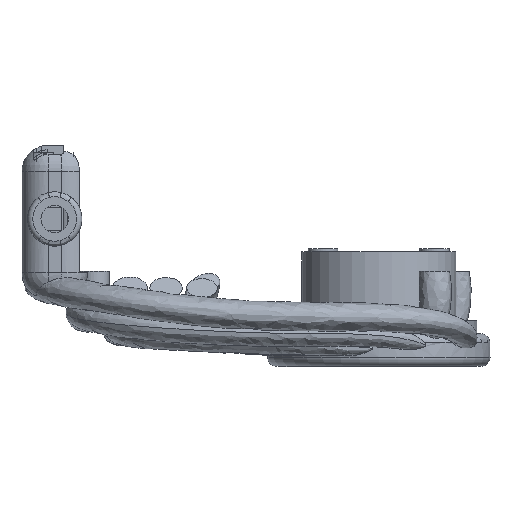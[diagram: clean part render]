
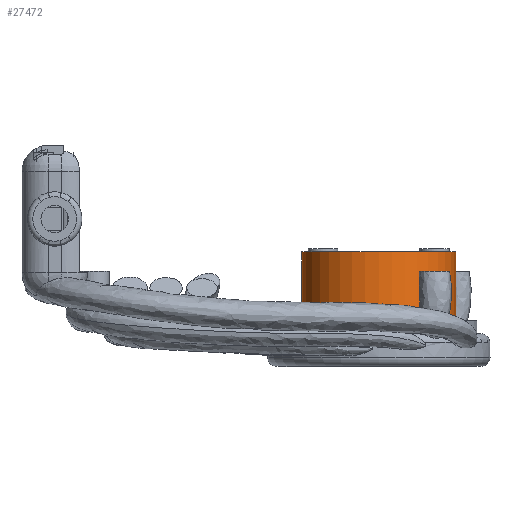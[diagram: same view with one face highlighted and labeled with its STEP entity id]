
A CAD part, top view. The second image highlights one B-rep face of the part: STEP entity #27472.
In plain terms, the highlighted cylindrical face has radius 23.5 mm (diameter 47 mm), a full revolution.
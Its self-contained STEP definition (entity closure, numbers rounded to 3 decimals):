
#25592 = PLANE('',#25593);
#25593 = AXIS2_PLACEMENT_3D('',#25594,#25595,#25596);
#25594 = CARTESIAN_POINT('',(31.,-31.,43.));
#25595 = DIRECTION('',(0.,1.,0.));
#25596 = DIRECTION('',(0.,-0.,1.));
#27230 = EDGE_CURVE('',#27231,#27231,#27233,.T.);
#27231 = VERTEX_POINT('',#27232);
#27232 = CARTESIAN_POINT('',(31.,-31.,66.5));
#27233 = SURFACE_CURVE('',#27234,(#27239,#27246),.PCURVE_S1.);
#27234 = CIRCLE('',#27235,23.5);
#27235 = AXIS2_PLACEMENT_3D('',#27236,#27237,#27238);
#27236 = CARTESIAN_POINT('',(31.,-31.,43.));
#27237 = DIRECTION('',(0.,1.,0.));
#27238 = DIRECTION('',(0.,-0.,1.));
#27239 = PCURVE('',#25592,#27240);
#27240 = DEFINITIONAL_REPRESENTATION('',(#27241),#27245);
#27241 = CIRCLE('',#27242,23.5);
#27242 = AXIS2_PLACEMENT_2D('',#27243,#27244);
#27243 = CARTESIAN_POINT('',(0.,0.));
#27244 = DIRECTION('',(1.,0.));
#27245 = ( GEOMETRIC_REPRESENTATION_CONTEXT(2) 
PARAMETRIC_REPRESENTATION_CONTEXT() REPRESENTATION_CONTEXT('2D SPACE',''
  ) );
#27246 = PCURVE('',#27247,#27252);
#27247 = CYLINDRICAL_SURFACE('',#27248,23.5);
#27248 = AXIS2_PLACEMENT_3D('',#27249,#27250,#27251);
#27249 = CARTESIAN_POINT('',(31.,-32.,43.));
#27250 = DIRECTION('',(0.,1.,0.));
#27251 = DIRECTION('',(0.,-0.,1.));
#27252 = DEFINITIONAL_REPRESENTATION('',(#27253),#27257);
#27253 = LINE('',#27254,#27255);
#27254 = CARTESIAN_POINT('',(0.,1.));
#27255 = VECTOR('',#27256,1.);
#27256 = DIRECTION('',(1.,0.));
#27257 = ( GEOMETRIC_REPRESENTATION_CONTEXT(2) 
PARAMETRIC_REPRESENTATION_CONTEXT() REPRESENTATION_CONTEXT('2D SPACE',''
  ) );
#27472 = ADVANCED_FACE('',(#27473),#27247,.T.);
#27473 = FACE_BOUND('',#27474,.T.);
#27474 = EDGE_LOOP('',(#27475,#27498,#27525,#27526));
#27475 = ORIENTED_EDGE('',*,*,#27476,.T.);
#27476 = EDGE_CURVE('',#27231,#27477,#27479,.T.);
#27477 = VERTEX_POINT('',#27478);
#27478 = CARTESIAN_POINT('',(31.,-10.,66.5));
#27479 = SEAM_CURVE('',#27480,(#27484,#27491),.PCURVE_S1.);
#27480 = LINE('',#27481,#27482);
#27481 = CARTESIAN_POINT('',(31.,-32.,66.5));
#27482 = VECTOR('',#27483,1.);
#27483 = DIRECTION('',(0.,1.,0.));
#27484 = PCURVE('',#27247,#27485);
#27485 = DEFINITIONAL_REPRESENTATION('',(#27486),#27490);
#27486 = LINE('',#27487,#27488);
#27487 = CARTESIAN_POINT('',(6.283,0.));
#27488 = VECTOR('',#27489,1.);
#27489 = DIRECTION('',(0.,1.));
#27490 = ( GEOMETRIC_REPRESENTATION_CONTEXT(2) 
PARAMETRIC_REPRESENTATION_CONTEXT() REPRESENTATION_CONTEXT('2D SPACE',''
  ) );
#27491 = PCURVE('',#27247,#27492);
#27492 = DEFINITIONAL_REPRESENTATION('',(#27493),#27497);
#27493 = LINE('',#27494,#27495);
#27494 = CARTESIAN_POINT('',(0.,0.));
#27495 = VECTOR('',#27496,1.);
#27496 = DIRECTION('',(0.,1.));
#27497 = ( GEOMETRIC_REPRESENTATION_CONTEXT(2) 
PARAMETRIC_REPRESENTATION_CONTEXT() REPRESENTATION_CONTEXT('2D SPACE',''
  ) );
#27498 = ORIENTED_EDGE('',*,*,#27499,.F.);
#27499 = EDGE_CURVE('',#27477,#27477,#27500,.T.);
#27500 = SURFACE_CURVE('',#27501,(#27506,#27513),.PCURVE_S1.);
#27501 = CIRCLE('',#27502,23.5);
#27502 = AXIS2_PLACEMENT_3D('',#27503,#27504,#27505);
#27503 = CARTESIAN_POINT('',(31.,-10.,43.));
#27504 = DIRECTION('',(0.,1.,0.));
#27505 = DIRECTION('',(0.,-0.,1.));
#27506 = PCURVE('',#27247,#27507);
#27507 = DEFINITIONAL_REPRESENTATION('',(#27508),#27512);
#27508 = LINE('',#27509,#27510);
#27509 = CARTESIAN_POINT('',(0.,22.));
#27510 = VECTOR('',#27511,1.);
#27511 = DIRECTION('',(1.,0.));
#27512 = ( GEOMETRIC_REPRESENTATION_CONTEXT(2) 
PARAMETRIC_REPRESENTATION_CONTEXT() REPRESENTATION_CONTEXT('2D SPACE',''
  ) );
#27513 = PCURVE('',#27514,#27519);
#27514 = PLANE('',#27515);
#27515 = AXIS2_PLACEMENT_3D('',#27516,#27517,#27518);
#27516 = CARTESIAN_POINT('',(31.,-10.,43.));
#27517 = DIRECTION('',(0.,1.,0.));
#27518 = DIRECTION('',(0.,-0.,1.));
#27519 = DEFINITIONAL_REPRESENTATION('',(#27520),#27524);
#27520 = CIRCLE('',#27521,23.5);
#27521 = AXIS2_PLACEMENT_2D('',#27522,#27523);
#27522 = CARTESIAN_POINT('',(0.,0.));
#27523 = DIRECTION('',(1.,0.));
#27524 = ( GEOMETRIC_REPRESENTATION_CONTEXT(2) 
PARAMETRIC_REPRESENTATION_CONTEXT() REPRESENTATION_CONTEXT('2D SPACE',''
  ) );
#27525 = ORIENTED_EDGE('',*,*,#27476,.F.);
#27526 = ORIENTED_EDGE('',*,*,#27230,.T.);
